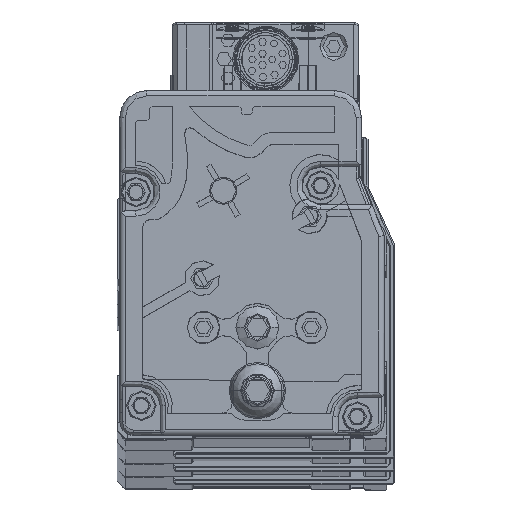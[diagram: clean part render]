
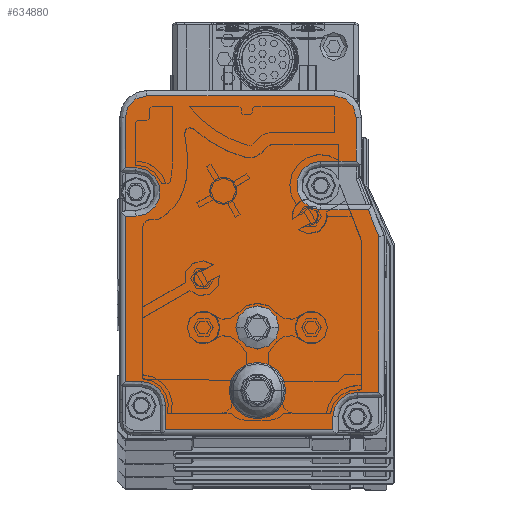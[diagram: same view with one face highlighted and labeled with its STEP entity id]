
A CAD part, top view. The second image highlights one B-rep face of the part: STEP entity #634880.
In plain terms, the highlighted planar face has unit normal (0, 0, 1).
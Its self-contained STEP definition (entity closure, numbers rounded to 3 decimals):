
#632770=CARTESIAN_POINT('',(-20.265,1.758,
3572.39));
#632780=DIRECTION('',(0.,0.,-1.));
#632790=DIRECTION('',(-1.,0.,0.));
#632800=AXIS2_PLACEMENT_3D('',#632770,#632780,#632790);
#632810=PLANE('',#632800);
#632820=CARTESIAN_POINT('',(-44.056,10.421,
3572.39));
#632830=DIRECTION('',(0.,0.,-1.));
#632840=DIRECTION('',(-1.,0.,0.));
#632850=AXIS2_PLACEMENT_3D('',#632820,#632830,#632840);
#632860=CIRCLE('',#632850,5.);
#632870=CARTESIAN_POINT('',(-49.056,10.421,
3572.39));
#632880=VERTEX_POINT('',#632870);
#632890=CARTESIAN_POINT('',(-39.056,10.421,
3572.39));
#632900=VERTEX_POINT('',#632890);
#632910=EDGE_CURVE('',#632880,#632900,#632860,.T.);
#632920=ORIENTED_EDGE('',*,*,#632910,.T.);
#632930=EDGE_CURVE('',#632900,#632880,#632860,.T.);
#632940=ORIENTED_EDGE('',*,*,#632930,.T.);
#632950=EDGE_LOOP('',(#632940,#632920));
#632960=FACE_BOUND('',#632950,.T.);
#632970=CARTESIAN_POINT('',(-44.059,22.124,
3572.39));
#632980=DIRECTION('',(0.,0.,1.));
#632990=DIRECTION('',(-1.,0.,0.));
#633000=AXIS2_PLACEMENT_3D('',#632970,#632980,#632990);
#633010=CIRCLE('',#633000,4.);
#633020=CARTESIAN_POINT('',(-40.059,22.124,
3572.39));
#633030=VERTEX_POINT('',#633020);
#633040=CARTESIAN_POINT('',(-48.059,22.124,
3572.39));
#633050=VERTEX_POINT('',#633040);
#633060=EDGE_CURVE('',#633030,#633050,#633010,.T.);
#633070=ORIENTED_EDGE('',*,*,#633060,.F.);
#633080=EDGE_CURVE('',#633050,#633030,#633010,.T.);
#633090=ORIENTED_EDGE('',*,*,#633080,.F.);
#633100=EDGE_LOOP('',(#633090,#633070));
#633110=FACE_BOUND('',#633100,.T.);
#633120=CARTESIAN_POINT('',(-61.059,2.124,
3572.39));
#633130=DIRECTION('',(0.,-1.,0.));
#633140=VECTOR('',#633130,1.);
#633150=LINE('',#633120,#633140);
#633160=CARTESIAN_POINT('',(-61.059,7.624,
3572.39));
#633170=VERTEX_POINT('',#633160);
#633180=CARTESIAN_POINT('',(-61.059,3.124,
3572.39));
#633190=VERTEX_POINT('',#633180);
#633200=EDGE_CURVE('',#633170,#633190,#633150,.T.);
#633210=ORIENTED_EDGE('',*,*,#633200,.T.);
#633220=CARTESIAN_POINT('',(-65.559,7.624,
3572.39));
#633230=DIRECTION('',(0.,0.,-1.));
#633240=DIRECTION('',(-1.,0.,0.));
#633250=AXIS2_PLACEMENT_3D('',#633220,#633230,#633240);
#633260=CIRCLE('',#633250,4.5);
#633270=CARTESIAN_POINT('',(-65.559,12.124,
3572.39));
#633280=VERTEX_POINT('',#633270);
#633290=EDGE_CURVE('',#633280,#633170,#633260,.T.);
#633300=ORIENTED_EDGE('',*,*,#633290,.T.);
#633310=CARTESIAN_POINT('',(-20.559,12.124,
3572.39));
#633320=DIRECTION('',(1.,0.,0.));
#633330=VECTOR('',#633320,1.);
#633340=LINE('',#633310,#633330);
#633350=CARTESIAN_POINT('',(-68.559,12.124,
3572.39));
#633360=VERTEX_POINT('',#633350);
#633370=EDGE_CURVE('',#633360,#633280,#633340,.T.);
#633380=ORIENTED_EDGE('',*,*,#633370,.T.);
#633390=CARTESIAN_POINT('',(-68.559,2.124,
3572.39));
#633400=DIRECTION('',(0.,-1.,0.));
#633410=VECTOR('',#633400,1.);
#633420=LINE('',#633390,#633410);
#633430=CARTESIAN_POINT('',(-68.559,42.727,
3572.39));
#633440=VERTEX_POINT('',#633430);
#633450=EDGE_CURVE('',#633440,#633360,#633420,.T.);
#633460=ORIENTED_EDGE('',*,*,#633450,.T.);
#633470=CARTESIAN_POINT('',(-20.559,42.727,
3572.39));
#633480=DIRECTION('',(-1.,0.,0.));
#633490=VECTOR('',#633480,1.);
#633500=LINE('',#633470,#633490);
#633510=CARTESIAN_POINT('',(-66.559,42.727,
3572.39));
#633520=VERTEX_POINT('',#633510);
#633530=EDGE_CURVE('',#633520,#633440,#633500,.T.);
#633540=ORIENTED_EDGE('',*,*,#633530,.T.);
#633550=CARTESIAN_POINT('',(-66.559,47.227,
3572.39));
#633560=DIRECTION('',(0.,0.,-1.));
#633570=DIRECTION('',(-1.,0.,0.));
#633580=AXIS2_PLACEMENT_3D('',#633550,#633560,#633570);
#633590=CIRCLE('',#633580,4.5);
#633600=CARTESIAN_POINT('',(-66.559,51.727,
3572.39));
#633610=VERTEX_POINT('',#633600);
#633620=EDGE_CURVE('',#633610,#633520,#633590,.T.);
#633630=ORIENTED_EDGE('',*,*,#633620,.T.);
#633640=CARTESIAN_POINT('',(-20.559,51.727,
3572.39));
#633650=DIRECTION('',(1.,0.,0.));
#633660=VECTOR('',#633650,1.);
#633670=LINE('',#633640,#633660);
#633680=CARTESIAN_POINT('',(-68.559,51.727,
3572.39));
#633690=VERTEX_POINT('',#633680);
#633700=EDGE_CURVE('',#633690,#633610,#633670,.T.);
#633710=ORIENTED_EDGE('',*,*,#633700,.T.);
#633720=CARTESIAN_POINT('',(-68.559,2.124,
3572.39));
#633730=DIRECTION('',(0.,-1.,0.));
#633740=VECTOR('',#633730,1.);
#633750=LINE('',#633720,#633740);
#633760=CARTESIAN_POINT('',(-68.559,61.024,
3572.39));
#633770=VERTEX_POINT('',#633760);
#633780=EDGE_CURVE('',#633770,#633690,#633750,.T.);
#633790=ORIENTED_EDGE('',*,*,#633780,.T.);
#633800=CARTESIAN_POINT('',(-64.559,61.024,
3572.39));
#633810=DIRECTION('',(0.,0.,1.));
#633820=DIRECTION('',(1.,0.,0.));
#633830=AXIS2_PLACEMENT_3D('',#633800,#633810,#633820);
#633840=CIRCLE('',#633830,4.);
#633850=CARTESIAN_POINT('',(-64.559,65.024,
3572.39));
#633860=VERTEX_POINT('',#633850);
#633870=EDGE_CURVE('',#633860,#633770,#633840,.T.);
#633880=ORIENTED_EDGE('',*,*,#633870,.T.);
#633890=CARTESIAN_POINT('',(-20.559,65.024,
3572.39));
#633900=DIRECTION('',(-1.,0.,0.));
#633910=VECTOR('',#633900,1.);
#633920=LINE('',#633890,#633910);
#633930=CARTESIAN_POINT('',(-29.759,65.024,
3572.39));
#633940=VERTEX_POINT('',#633930);
#633950=EDGE_CURVE('',#633940,#633860,#633920,.T.);
#633960=ORIENTED_EDGE('',*,*,#633950,.T.);
#633970=CARTESIAN_POINT('',(-29.759,61.024,
3572.39));
#633980=DIRECTION('',(0.,0.,1.));
#633990=DIRECTION('',(1.,0.,0.));
#634000=AXIS2_PLACEMENT_3D('',#633970,#633980,#633990);
#634010=CIRCLE('',#634000,4.);
#634020=CARTESIAN_POINT('',(-25.759,61.024,
3572.39));
#634030=VERTEX_POINT('',#634020);
#634040=EDGE_CURVE('',#634030,#633940,#634010,.T.);
#634050=ORIENTED_EDGE('',*,*,#634040,.T.);
#634060=CARTESIAN_POINT('',(-25.759,2.124,
3572.39));
#634070=DIRECTION('',(0.,1.,0.));
#634080=VECTOR('',#634070,1.);
#634090=LINE('',#634060,#634080);
#634100=CARTESIAN_POINT('',(-25.759,52.924,
3572.39));
#634110=VERTEX_POINT('',#634100);
#634120=EDGE_CURVE('',#634110,#634030,#634090,.T.);
#634130=ORIENTED_EDGE('',*,*,#634120,.T.);
#634140=CARTESIAN_POINT('',(-20.559,52.924,
3572.39));
#634150=DIRECTION('',(-1.,0.,0.));
#634160=VECTOR('',#634150,1.);
#634170=LINE('',#634140,#634160);
#634180=CARTESIAN_POINT('',(-32.309,52.924,
3572.39));
#634190=VERTEX_POINT('',#634180);
#634200=EDGE_CURVE('',#634110,#634190,#634170,.T.);
#634210=ORIENTED_EDGE('',*,*,#634200,.F.);
#634220=CARTESIAN_POINT('',(-32.309,48.424,
3572.39));
#634230=DIRECTION('',(0.,0.,-1.));
#634240=DIRECTION('',(-1.,0.,0.));
#634250=AXIS2_PLACEMENT_3D('',#634220,#634230,#634240);
#634260=CIRCLE('',#634250,4.5);
#634270=CARTESIAN_POINT('',(-32.309,43.924,
3572.39));
#634280=VERTEX_POINT('',#634270);
#634290=EDGE_CURVE('',#634280,#634190,#634260,.T.);
#634300=ORIENTED_EDGE('',*,*,#634290,.T.);
#634310=CARTESIAN_POINT('',(-20.559,43.924,
3572.39));
#634320=DIRECTION('',(-1.,0.,0.));
#634330=VECTOR('',#634320,1.);
#634340=LINE('',#634310,#634330);
#634350=CARTESIAN_POINT('',(-23.499,43.924,
3572.39));
#634360=VERTEX_POINT('',#634350);
#634370=EDGE_CURVE('',#634360,#634280,#634340,.T.);
#634380=ORIENTED_EDGE('',*,*,#634370,.T.);
#634390=CARTESIAN_POINT('',(-7.243,2.124,
3572.39));
#634400=DIRECTION('',(0.362,-0.932,0.));
#634410=VECTOR('',#634400,1.);
#634420=LINE('',#634390,#634410);
#634430=CARTESIAN_POINT('',(-21.559,38.937,
3572.39));
#634440=VERTEX_POINT('',#634430);
#634450=EDGE_CURVE('',#634360,#634440,#634420,.T.);
#634460=ORIENTED_EDGE('',*,*,#634450,.F.);
#634470=CARTESIAN_POINT('',(-21.559,2.124,
3572.39));
#634480=DIRECTION('',(0.,-1.,0.));
#634490=VECTOR('',#634480,1.);
#634500=LINE('',#634470,#634490);
#634510=CARTESIAN_POINT('',(-21.559,10.124,
3572.39));
#634520=VERTEX_POINT('',#634510);
#634530=EDGE_CURVE('',#634440,#634520,#634500,.T.);
#634540=ORIENTED_EDGE('',*,*,#634530,.F.);
#634550=CARTESIAN_POINT('',(-20.559,10.124,
3572.39));
#634560=DIRECTION('',(1.,0.,0.));
#634570=VECTOR('',#634560,1.);
#634580=LINE('',#634550,#634570);
#634590=CARTESIAN_POINT('',(-25.559,10.124,
3572.39));
#634600=VERTEX_POINT('',#634590);
#634610=EDGE_CURVE('',#634600,#634520,#634580,.T.);
#634620=ORIENTED_EDGE('',*,*,#634610,.T.);
#634630=CARTESIAN_POINT('',(-25.559,5.624,
3572.39));
#634640=DIRECTION('',(0.,0.,-1.));
#634650=DIRECTION('',(-1.,0.,0.));
#634660=AXIS2_PLACEMENT_3D('',#634630,#634640,#634650);
#634670=CIRCLE('',#634660,4.5);
#634680=CARTESIAN_POINT('',(-30.059,5.624,
3572.39));
#634690=VERTEX_POINT('',#634680);
#634700=EDGE_CURVE('',#634690,#634600,#634670,.T.);
#634710=ORIENTED_EDGE('',*,*,#634700,.T.);
#634720=CARTESIAN_POINT('',(-30.059,2.124,
3572.39));
#634730=DIRECTION('',(0.,1.,0.));
#634740=VECTOR('',#634730,1.);
#634750=LINE('',#634720,#634740);
#634760=CARTESIAN_POINT('',(-30.059,3.124,
3572.39));
#634770=VERTEX_POINT('',#634760);
#634780=EDGE_CURVE('',#634770,#634690,#634750,.T.);
#634790=ORIENTED_EDGE('',*,*,#634780,.T.);
#634800=CARTESIAN_POINT('',(-20.559,3.124,
3572.39));
#634810=DIRECTION('',(-1.,0.,0.));
#634820=VECTOR('',#634810,1.);
#634830=LINE('',#634800,#634820);
#634840=EDGE_CURVE('',#634770,#633190,#634830,.T.);
#634850=ORIENTED_EDGE('',*,*,#634840,.F.);
#634860=EDGE_LOOP('',(#634850,#634790,#634710,#634620,#634540,#634460,
#634380,#634300,#634210,#634130,#634050,#633960,#633880,#633790,#633710,
#633630,#633540,#633460,#633380,#633300,#633210));
#634870=FACE_OUTER_BOUND('',#634860,.T.);
#634880=ADVANCED_FACE('',(#632960,#633110,#634870),#632810,.F.);
